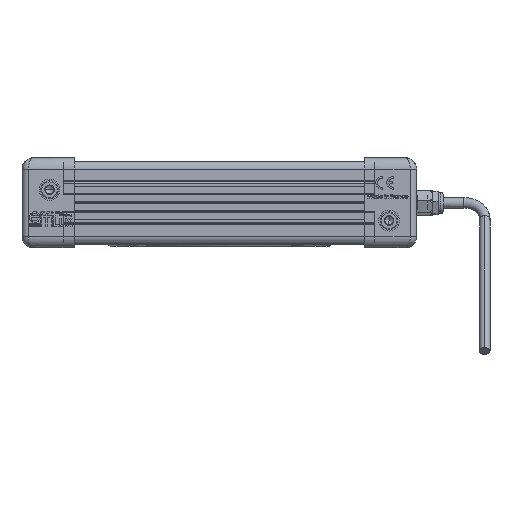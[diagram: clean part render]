
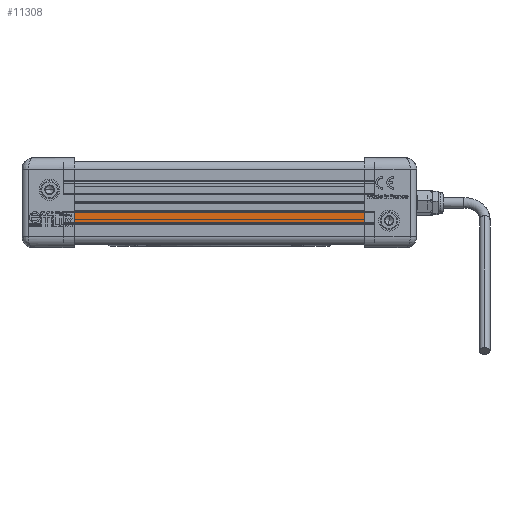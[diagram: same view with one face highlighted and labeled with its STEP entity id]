
A CAD part, front view. The second image highlights one B-rep face of the part: STEP entity #11308.
In plain terms, the highlighted planar face has unit normal (0, -1, 0) as drawn and (-1, 0, 0) by its records, which use the part's own axes.
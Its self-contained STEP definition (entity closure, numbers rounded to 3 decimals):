
#105 = EDGE_CURVE ( 'NONE', #21297, #50310, #63970, .T. ) ;
#353 = VERTEX_POINT ( 'NONE', #50118 ) ;
#4246 = EDGE_CURVE ( 'NONE', #353, #21297, #18965, .T. ) ;
#7071 = ORIENTED_EDGE ( 'NONE', *, *, #61688, .F. ) ;
#11308 = ADVANCED_FACE ( 'NONE', ( #18943 ), #63647, .F. ) ;
#12098 = DIRECTION ( 'NONE',  ( 0., -1., 0. ) ) ;
#17714 = CARTESIAN_POINT ( 'NONE',  ( -9., -4.5, 149. ) ) ;
#18943 = FACE_OUTER_BOUND ( 'NONE', #39344, .T. ) ;
#18965 = LINE ( 'NONE', #59204, #69501 ) ;
#19673 = DIRECTION ( 'NONE',  ( 1., 0., 0. ) ) ;
#21297 = VERTEX_POINT ( 'NONE', #55839 ) ;
#23808 = DIRECTION ( 'NONE',  ( 0., 1., 0. ) ) ;
#27314 = VERTEX_POINT ( 'NONE', #37512 ) ;
#35637 = DIRECTION ( 'NONE',  ( 0., -1., 0. ) ) ;
#36301 = LINE ( 'NONE', #17714, #70225 ) ;
#37155 = VECTOR ( 'NONE', #35637, 1000. ) ;
#37512 = CARTESIAN_POINT ( 'NONE',  ( -9., -9.5, 149. ) ) ;
#38749 = ORIENTED_EDGE ( 'NONE', *, *, #4246, .T. ) ;
#39344 = EDGE_LOOP ( 'NONE', ( #67208, #69031, #7071, #38749 ) ) ;
#41747 = LINE ( 'NONE', #53291, #54428 ) ;
#44714 = CARTESIAN_POINT ( 'NONE',  ( -9., -9.5, 0. ) ) ;
#47560 = CARTESIAN_POINT ( 'NONE',  ( -9., -4.5, 0. ) ) ;
#50118 = CARTESIAN_POINT ( 'NONE',  ( -9., -4.5, 149. ) ) ;
#50310 = VERTEX_POINT ( 'NONE', #44714 ) ;
#53291 = CARTESIAN_POINT ( 'NONE',  ( -9., -9.5, 149. ) ) ;
#54428 = VECTOR ( 'NONE', #64837, 1000. ) ;
#54698 = EDGE_CURVE ( 'NONE', #27314, #50310, #41747, .T. ) ;
#55839 = CARTESIAN_POINT ( 'NONE',  ( -9., -4.5, 0. ) ) ;
#59204 = CARTESIAN_POINT ( 'NONE',  ( -9., -4.5, 149. ) ) ;
#61688 = EDGE_CURVE ( 'NONE', #353, #27314, #36301, .T. ) ;
#62693 = AXIS2_PLACEMENT_3D ( 'NONE', #64397, #19673, #23808 ) ;
#63647 = PLANE ( 'NONE',  #62693 ) ;
#63970 = LINE ( 'NONE', #47560, #37155 ) ;
#64397 = CARTESIAN_POINT ( 'NONE',  ( -9., -4.5, 149. ) ) ;
#64837 = DIRECTION ( 'NONE',  ( 0., 0., -1. ) ) ;
#67208 = ORIENTED_EDGE ( 'NONE', *, *, #105, .T. ) ;
#69031 = ORIENTED_EDGE ( 'NONE', *, *, #54698, .F. ) ;
#69501 = VECTOR ( 'NONE', #71138, 1000. ) ;
#70225 = VECTOR ( 'NONE', #12098, 1000. ) ;
#71138 = DIRECTION ( 'NONE',  ( 0., 0., -1. ) ) ;
